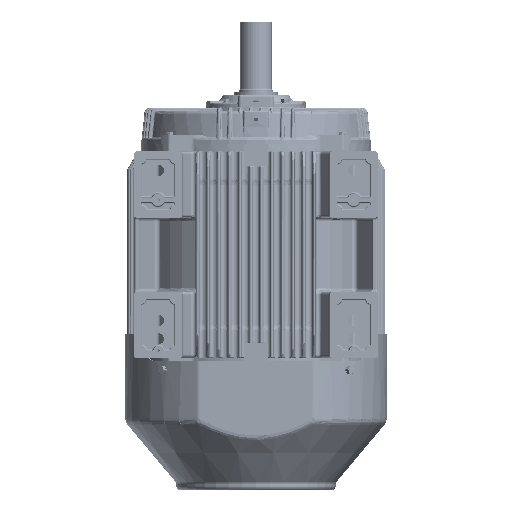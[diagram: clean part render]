
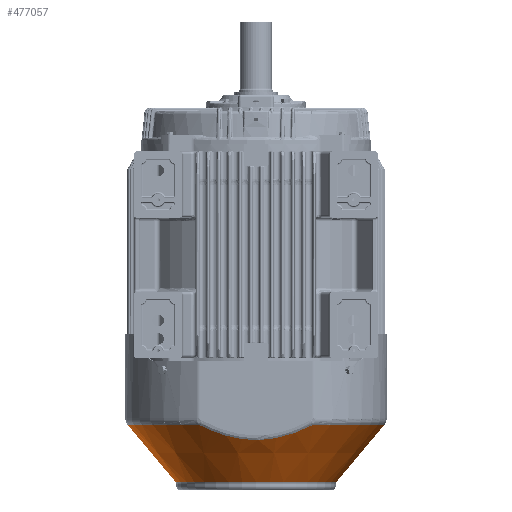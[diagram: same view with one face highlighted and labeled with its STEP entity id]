
A CAD part, front view. The second image highlights one B-rep face of the part: STEP entity #477057.
In plain terms, the highlighted conical face has half-angle 40 degrees and reference radius 166.872 mm.
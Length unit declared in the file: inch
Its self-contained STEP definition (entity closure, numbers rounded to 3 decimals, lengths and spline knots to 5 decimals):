
#11725 = DIRECTION ( 'NONE',  ( 1., 0., 0. ) ) ;
#12426 = ORIENTED_EDGE ( 'NONE', *, *, #156622, .T. ) ;
#24834 = CARTESIAN_POINT ( 'NONE',  ( 6.56975, 0., -18.54706 ) ) ;
#26907 = CARTESIAN_POINT ( 'NONE',  ( -3.66117, -9.39792, -14.35716 ) ) ;
#39518 = DIRECTION ( 'NONE',  ( 1., 0., 0. ) ) ;
#46014 = DIRECTION ( 'NONE',  ( 1., 0., 0. ) ) ;
#54232 = DIRECTION ( 'NONE',  ( 0., 0., 1. ) ) ;
#54526 = ORIENTED_EDGE ( 'NONE', *, *, #395986, .T. ) ;
#69336 = CARTESIAN_POINT ( 'NONE',  ( 0.41208, -9.42875, -15.13951 ) ) ;
#70232 = CIRCLE ( 'NONE', #138321, 6.56975 ) ;
#72405 = CARTESIAN_POINT ( 'NONE',  ( -1.16331, -9.42537, -15.0588 ) ) ;
#75349 = CARTESIAN_POINT ( 'NONE',  ( -0.19667, -9.42877, -15.13997 ) ) ;
#78288 = CARTESIAN_POINT ( 'NONE',  ( -4.03733, -9.392, -14.19372 ) ) ;
#100439 = CARTESIAN_POINT ( 'NONE',  ( -10.48507, 0., -13.88096 ) ) ;
#111945 = CARTESIAN_POINT ( 'NONE',  ( 2.22396, -9.41673, -14.84767 ) ) ;
#114251 = CIRCLE ( 'NONE', #259319, 10.48507 ) ;
#117904 = CARTESIAN_POINT ( 'NONE',  ( -1.11235, -9.42565, -15.06574 ) ) ;
#120939 = CARTESIAN_POINT ( 'NONE',  ( -2.01885, -9.41902, -14.90544 ) ) ;
#131568 = CARTESIAN_POINT ( 'NONE',  ( -4.68306, -9.38114, -13.88096 ) ) ;
#138321 = AXIS2_PLACEMENT_3D ( 'NONE', #384647, #54232, #11725 ) ;
#143259 = VECTOR ( 'NONE', #435632, 39.37008 ) ;
#156622 = EDGE_CURVE ( 'NONE', #340692, #309252, #255347, .T. ) ;
#159785 = CARTESIAN_POINT ( 'NONE',  ( -6.56975, 0., -18.54706 ) ) ;
#163461 = CARTESIAN_POINT ( 'NONE',  ( -0.80675, -9.42714, -15.10133 ) ) ;
#166448 = CARTESIAN_POINT ( 'NONE',  ( -4.31647, -9.38743, -14.06476 ) ) ;
#182161 = DIRECTION ( 'NONE',  ( 1., 0., 0. ) ) ;
#202668 = B_SPLINE_CURVE_WITH_KNOTS ( 'NONE', 3,
 ( #484876, #436375, #487947, #527473, #533428, #111945, #575989, #208956, #481911, #345379, #530450, #254424, #69336, #75349, #578942, #257436, #163461, #445332, #348348, #117904, #72405, #493855, #120939, #442377, #399846, #26907, #211865, #396814, #78288, #166448, #351357, #214850 ),
 .UNSPECIFIED., .F., .F.,
 ( 4, 2, 2, 2, 2, 2, 2, 2, 2, 2, 2, 2, 2, 2, 2, 4 ),
 ( 0., 0.03097, 0.06194, 0.07742, 0.08516, 0.0929, 0.12387, 0.13936, 0.1471, 0.15097, 0.15484, 0.18581, 0.21678, 0.22452, 0.23226, 0.24774 ),
 .UNSPECIFIED. ) ;
#203871 = VERTEX_POINT ( 'NONE', #568177 ) ;
#208956 = CARTESIAN_POINT ( 'NONE',  ( 1.72522, -9.42139, -14.96252 ) ) ;
#211865 = CARTESIAN_POINT ( 'NONE',  ( -3.75571, -9.39647, -14.3174 ) ) ;
#214850 = CARTESIAN_POINT ( 'NONE',  ( -4.68306, -9.38114, -13.88096 ) ) ;
#218594 = VERTEX_POINT ( 'NONE', #515685 ) ;
#234026 = FACE_OUTER_BOUND ( 'NONE', #283735, .T. ) ;
#236538 = CARTESIAN_POINT ( 'NONE',  ( 0., 0., -13.88096 ) ) ;
#237056 = CARTESIAN_POINT ( 'NONE',  ( 0., 0., -18.54706 ) ) ;
#237297 = EDGE_CURVE ( 'NONE', #218594, #309252, #455772, .T. ) ;
#254424 = CARTESIAN_POINT ( 'NONE',  ( 0.81691, -9.42747, -15.10938 ) ) ;
#255347 = LINE ( 'NONE', #24834, #439145 ) ;
#257436 = CARTESIAN_POINT ( 'NONE',  ( -0.70498, -9.42753, -15.11057 ) ) ;
#259319 = AXIS2_PLACEMENT_3D ( 'NONE', #236538, #558069, #39518 ) ;
#283735 = EDGE_LOOP ( 'NONE', ( #545373, #324971, #12426, #592862, #54526, #560730 ) ) ;
#284552 = EDGE_CURVE ( 'NONE', #390604, #490760, #114251, .T. ) ;
#288864 = CARTESIAN_POINT ( 'NONE',  ( 10.48507, 0., -13.88096 ) ) ;
#300396 = CARTESIAN_POINT ( 'NONE',  ( 6.56975, 0., -18.54706 ) ) ;
#309252 = VERTEX_POINT ( 'NONE', #288864 ) ;
#315596 = DIRECTION ( 'NONE',  ( 0., 0., 1. ) ) ;
#320989 = CONICAL_SURFACE ( 'NONE', #447010, 6.56975, 0.698 ) ;
#324971 = ORIENTED_EDGE ( 'NONE', *, *, #329236, .T. ) ;
#329236 = EDGE_CURVE ( 'NONE', #203871, #340692, #70232, .T. ) ;
#340692 = VERTEX_POINT ( 'NONE', #300396 ) ;
#345379 = CARTESIAN_POINT ( 'NONE',  ( 1.42262, -9.42372, -15.0192 ) ) ;
#348348 = CARTESIAN_POINT ( 'NONE',  ( -1.01045, -9.4262, -15.07868 ) ) ;
#351357 = CARTESIAN_POINT ( 'NONE',  ( -4.50063, -9.38431, -13.97468 ) ) ;
#364064 = CARTESIAN_POINT ( 'NONE',  ( 0., 0., -13.88096 ) ) ;
#384647 = CARTESIAN_POINT ( 'NONE',  ( 0., 0., -18.54706 ) ) ;
#388726 = DIRECTION ( 'NONE',  ( 0.643, 0., 0.766 ) ) ;
#390604 = VERTEX_POINT ( 'NONE', #100439 ) ;
#395986 = EDGE_CURVE ( 'NONE', #218594, #490760, #202668, .T. ) ;
#396814 = CARTESIAN_POINT ( 'NONE',  ( -3.9438, -9.39351, -14.23567 ) ) ;
#399846 = CARTESIAN_POINT ( 'NONE',  ( -3.18703, -9.40504, -14.54969 ) ) ;
#435632 = DIRECTION ( 'NONE',  ( -0.643, 0., 0.766 ) ) ;
#436375 = CARTESIAN_POINT ( 'NONE',  ( 4.31871, -9.38747, -14.06814 ) ) ;
#439145 = VECTOR ( 'NONE', #388726, 39.37008 ) ;
#442377 = CARTESIAN_POINT ( 'NONE',  ( -2.80213, -9.41024, -14.68405 ) ) ;
#445332 = CARTESIAN_POINT ( 'NONE',  ( -0.95951, -9.42645, -15.08469 ) ) ;
#447010 = AXIS2_PLACEMENT_3D ( 'NONE', #237056, #507096, #46014 ) ;
#455772 = CIRCLE ( 'NONE', #552327, 10.48507 ) ;
#477057 = ADVANCED_FACE ( 'NONE', ( #234026 ), #320989, .T. ) ;
#481167 = LINE ( 'NONE', #159785, #143259 ) ;
#481911 = CARTESIAN_POINT ( 'NONE',  ( 1.6243, -9.42221, -14.98261 ) ) ;
#484876 = CARTESIAN_POINT ( 'NONE',  ( 4.68306, -9.38114, -13.88096 ) ) ;
#487947 = CARTESIAN_POINT ( 'NONE',  ( 3.94884, -9.3936, -14.24013 ) ) ;
#490760 = VERTEX_POINT ( 'NONE', #131568 ) ;
#493855 = CARTESIAN_POINT ( 'NONE',  ( -1.62047, -9.42261, -14.99245 ) ) ;
#507096 = DIRECTION ( 'NONE',  ( 0., 0., 1. ) ) ;
#515685 = CARTESIAN_POINT ( 'NONE',  ( 4.68306, -9.38114, -13.88096 ) ) ;
#527473 = CARTESIAN_POINT ( 'NONE',  ( 3.19544, -9.40492, -14.54649 ) ) ;
#530450 = CARTESIAN_POINT ( 'NONE',  ( 1.32172, -9.42441, -15.03573 ) ) ;
#533428 = CARTESIAN_POINT ( 'NONE',  ( 2.8119, -9.41011, -14.68087 ) ) ;
#545373 = ORIENTED_EDGE ( 'NONE', *, *, #549136, .F. ) ;
#549136 = EDGE_CURVE ( 'NONE', #203871, #390604, #481167, .T. ) ;
#552327 = AXIS2_PLACEMENT_3D ( 'NONE', #364064, #315596, #182161 ) ;
#558069 = DIRECTION ( 'NONE',  ( 0., 0., 1. ) ) ;
#560730 = ORIENTED_EDGE ( 'NONE', *, *, #284552, .F. ) ;
#568177 = CARTESIAN_POINT ( 'NONE',  ( -6.56975, 0., -18.54706 ) ) ;
#575989 = CARTESIAN_POINT ( 'NONE',  ( 2.02586, -9.41874, -14.89746 ) ) ;
#578942 = CARTESIAN_POINT ( 'NONE',  ( -0.39984, -9.42846, -15.13268 ) ) ;
#592862 = ORIENTED_EDGE ( 'NONE', *, *, #237297, .F. ) ;
